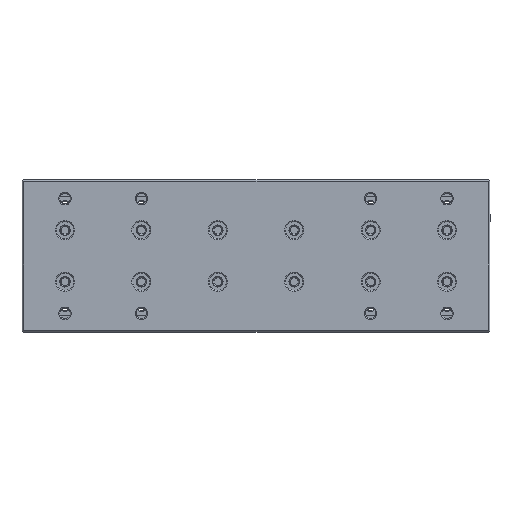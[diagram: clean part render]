
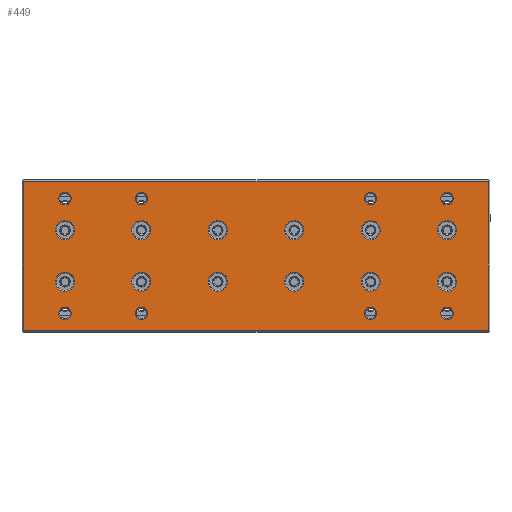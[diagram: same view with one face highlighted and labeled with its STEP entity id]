
A CAD part, top view. The second image highlights one B-rep face of the part: STEP entity #449.
In plain terms, the highlighted planar face has unit normal (0, 0, 1) as drawn and (0, 0, -1) by its records, which use the part's own axes.
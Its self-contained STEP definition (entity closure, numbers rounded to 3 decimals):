
#449=ADVANCED_FACE('',(#1333,#1334,#1335,#1336,#1337,#1338,#1339,#1340,
#1341,#1342,#1343,#1344,#1345,#1346,#1347,#1348,#1349,#1350,#1351,#1352,
#1353),#829,.F.);
#829=PLANE('',#5865);
#975=CIRCLE('',#5845,5.);
#976=CIRCLE('',#5846,5.);
#977=CIRCLE('',#5847,5.);
#978=CIRCLE('',#5848,5.);
#979=CIRCLE('',#5849,3.25);
#980=CIRCLE('',#5850,5.);
#981=CIRCLE('',#5851,5.);
#982=CIRCLE('',#5852,3.25);
#983=CIRCLE('',#5853,5.);
#984=CIRCLE('',#5854,3.25);
#985=CIRCLE('',#5855,5.);
#986=CIRCLE('',#5856,5.);
#987=CIRCLE('',#5857,3.25);
#988=CIRCLE('',#5858,3.25);
#989=CIRCLE('',#5859,5.);
#990=CIRCLE('',#5860,5.);
#991=CIRCLE('',#5861,3.25);
#992=CIRCLE('',#5862,5.);
#993=CIRCLE('',#5863,3.25);
#994=CIRCLE('',#5864,3.25);
#1333=FACE_BOUND('',#2013,.T.);
#1334=FACE_BOUND('',#2014,.T.);
#1335=FACE_BOUND('',#2015,.T.);
#1336=FACE_BOUND('',#2016,.T.);
#1337=FACE_BOUND('',#2017,.T.);
#1338=FACE_BOUND('',#2018,.T.);
#1339=FACE_BOUND('',#2019,.T.);
#1340=FACE_BOUND('',#2020,.T.);
#1341=FACE_BOUND('',#2021,.T.);
#1342=FACE_BOUND('',#2022,.T.);
#1343=FACE_BOUND('',#2023,.T.);
#1344=FACE_BOUND('',#2024,.T.);
#1345=FACE_BOUND('',#2025,.T.);
#1346=FACE_BOUND('',#2026,.T.);
#1347=FACE_BOUND('',#2027,.T.);
#1348=FACE_BOUND('',#2028,.T.);
#1349=FACE_BOUND('',#2029,.T.);
#1350=FACE_BOUND('',#2030,.T.);
#1351=FACE_BOUND('',#2031,.T.);
#1352=FACE_BOUND('',#2032,.T.);
#1353=FACE_BOUND('',#2033,.T.);
#2013=EDGE_LOOP('',(#2782));
#2014=EDGE_LOOP('',(#2783));
#2015=EDGE_LOOP('',(#2784,#2785,#2786,#2787));
#2016=EDGE_LOOP('',(#2788));
#2017=EDGE_LOOP('',(#2789));
#2018=EDGE_LOOP('',(#2790));
#2019=EDGE_LOOP('',(#2791));
#2020=EDGE_LOOP('',(#2792));
#2021=EDGE_LOOP('',(#2793));
#2022=EDGE_LOOP('',(#2794));
#2023=EDGE_LOOP('',(#2795));
#2024=EDGE_LOOP('',(#2796));
#2025=EDGE_LOOP('',(#2797));
#2026=EDGE_LOOP('',(#2798));
#2027=EDGE_LOOP('',(#2799));
#2028=EDGE_LOOP('',(#2800));
#2029=EDGE_LOOP('',(#2801));
#2030=EDGE_LOOP('',(#2802));
#2031=EDGE_LOOP('',(#2803));
#2032=EDGE_LOOP('',(#2804));
#2033=EDGE_LOOP('',(#2805));
#2782=ORIENTED_EDGE('',*,*,#4628,.T.);
#2783=ORIENTED_EDGE('',*,*,#4629,.T.);
#2784=ORIENTED_EDGE('',*,*,#4630,.T.);
#2785=ORIENTED_EDGE('',*,*,#4631,.T.);
#2786=ORIENTED_EDGE('',*,*,#4632,.T.);
#2787=ORIENTED_EDGE('',*,*,#4633,.T.);
#2788=ORIENTED_EDGE('',*,*,#4634,.T.);
#2789=ORIENTED_EDGE('',*,*,#4635,.T.);
#2790=ORIENTED_EDGE('',*,*,#4636,.T.);
#2791=ORIENTED_EDGE('',*,*,#4637,.T.);
#2792=ORIENTED_EDGE('',*,*,#4638,.T.);
#2793=ORIENTED_EDGE('',*,*,#4639,.T.);
#2794=ORIENTED_EDGE('',*,*,#4640,.T.);
#2795=ORIENTED_EDGE('',*,*,#4641,.T.);
#2796=ORIENTED_EDGE('',*,*,#4642,.T.);
#2797=ORIENTED_EDGE('',*,*,#4643,.T.);
#2798=ORIENTED_EDGE('',*,*,#4644,.T.);
#2799=ORIENTED_EDGE('',*,*,#4645,.T.);
#2800=ORIENTED_EDGE('',*,*,#4646,.T.);
#2801=ORIENTED_EDGE('',*,*,#4647,.T.);
#2802=ORIENTED_EDGE('',*,*,#4648,.T.);
#2803=ORIENTED_EDGE('',*,*,#4649,.T.);
#2804=ORIENTED_EDGE('',*,*,#4650,.T.);
#2805=ORIENTED_EDGE('',*,*,#4651,.T.);
#4084=VERTEX_POINT('',#8370);
#4085=VERTEX_POINT('',#8372);
#4086=VERTEX_POINT('',#8374);
#4087=VERTEX_POINT('',#8375);
#4088=VERTEX_POINT('',#8377);
#4089=VERTEX_POINT('',#8379);
#4090=VERTEX_POINT('',#8382);
#4091=VERTEX_POINT('',#8384);
#4092=VERTEX_POINT('',#8386);
#4093=VERTEX_POINT('',#8388);
#4094=VERTEX_POINT('',#8390);
#4095=VERTEX_POINT('',#8392);
#4096=VERTEX_POINT('',#8394);
#4097=VERTEX_POINT('',#8396);
#4098=VERTEX_POINT('',#8398);
#4099=VERTEX_POINT('',#8400);
#4100=VERTEX_POINT('',#8402);
#4101=VERTEX_POINT('',#8404);
#4102=VERTEX_POINT('',#8406);
#4103=VERTEX_POINT('',#8408);
#4104=VERTEX_POINT('',#8410);
#4105=VERTEX_POINT('',#8412);
#4106=VERTEX_POINT('',#8414);
#4107=VERTEX_POINT('',#8416);
#4628=EDGE_CURVE('',#4084,#4084,#975,.T.);
#4629=EDGE_CURVE('',#4085,#4085,#976,.T.);
#4630=EDGE_CURVE('',#4086,#4087,#5273,.T.);
#4631=EDGE_CURVE('',#4087,#4088,#5274,.T.);
#4632=EDGE_CURVE('',#4088,#4089,#5275,.T.);
#4633=EDGE_CURVE('',#4089,#4086,#5276,.T.);
#4634=EDGE_CURVE('',#4090,#4090,#977,.T.);
#4635=EDGE_CURVE('',#4091,#4091,#978,.T.);
#4636=EDGE_CURVE('',#4092,#4092,#979,.T.);
#4637=EDGE_CURVE('',#4093,#4093,#980,.T.);
#4638=EDGE_CURVE('',#4094,#4094,#981,.T.);
#4639=EDGE_CURVE('',#4095,#4095,#982,.T.);
#4640=EDGE_CURVE('',#4096,#4096,#983,.T.);
#4641=EDGE_CURVE('',#4097,#4097,#984,.T.);
#4642=EDGE_CURVE('',#4098,#4098,#985,.T.);
#4643=EDGE_CURVE('',#4099,#4099,#986,.T.);
#4644=EDGE_CURVE('',#4100,#4100,#987,.T.);
#4645=EDGE_CURVE('',#4101,#4101,#988,.T.);
#4646=EDGE_CURVE('',#4102,#4102,#989,.T.);
#4647=EDGE_CURVE('',#4103,#4103,#990,.T.);
#4648=EDGE_CURVE('',#4104,#4104,#991,.T.);
#4649=EDGE_CURVE('',#4105,#4105,#992,.T.);
#4650=EDGE_CURVE('',#4106,#4106,#993,.T.);
#4651=EDGE_CURVE('',#4107,#4107,#994,.T.);
#5273=LINE('',#8373,#5557);
#5274=LINE('',#8376,#5558);
#5275=LINE('',#8378,#5559);
#5276=LINE('',#8380,#5560);
#5557=VECTOR('',#6603,1.);
#5558=VECTOR('',#6604,1.);
#5559=VECTOR('',#6605,1.);
#5560=VECTOR('',#6606,1.);
#5845=AXIS2_PLACEMENT_3D('',#8369,#6599,#6600);
#5846=AXIS2_PLACEMENT_3D('',#8371,#6601,#6602);
#5847=AXIS2_PLACEMENT_3D('',#8381,#6607,#6608);
#5848=AXIS2_PLACEMENT_3D('',#8383,#6609,#6610);
#5849=AXIS2_PLACEMENT_3D('',#8385,#6611,#6612);
#5850=AXIS2_PLACEMENT_3D('',#8387,#6613,#6614);
#5851=AXIS2_PLACEMENT_3D('',#8389,#6615,#6616);
#5852=AXIS2_PLACEMENT_3D('',#8391,#6617,#6618);
#5853=AXIS2_PLACEMENT_3D('',#8393,#6619,#6620);
#5854=AXIS2_PLACEMENT_3D('',#8395,#6621,#6622);
#5855=AXIS2_PLACEMENT_3D('',#8397,#6623,#6624);
#5856=AXIS2_PLACEMENT_3D('',#8399,#6625,#6626);
#5857=AXIS2_PLACEMENT_3D('',#8401,#6627,#6628);
#5858=AXIS2_PLACEMENT_3D('',#8403,#6629,#6630);
#5859=AXIS2_PLACEMENT_3D('',#8405,#6631,#6632);
#5860=AXIS2_PLACEMENT_3D('',#8407,#6633,#6634);
#5861=AXIS2_PLACEMENT_3D('',#8409,#6635,#6636);
#5862=AXIS2_PLACEMENT_3D('',#8411,#6637,#6638);
#5863=AXIS2_PLACEMENT_3D('',#8413,#6639,#6640);
#5864=AXIS2_PLACEMENT_3D('',#8415,#6641,#6642);
#5865=AXIS2_PLACEMENT_3D('',#8417,#6643,#6644);
#6599=DIRECTION('',(0.,0.,1.));
#6600=DIRECTION('',(1.,0.,0.));
#6601=DIRECTION('',(0.,0.,1.));
#6602=DIRECTION('',(1.,0.,0.));
#6603=DIRECTION('',(1.,0.,0.));
#6604=DIRECTION('',(0.,-1.,0.));
#6605=DIRECTION('',(-1.,0.,0.));
#6606=DIRECTION('',(0.,1.,0.));
#6607=DIRECTION('',(0.,0.,1.));
#6608=DIRECTION('',(1.,0.,0.));
#6609=DIRECTION('',(0.,0.,1.));
#6610=DIRECTION('',(1.,0.,0.));
#6611=DIRECTION('',(0.,0.,1.));
#6612=DIRECTION('',(1.,0.,0.));
#6613=DIRECTION('',(0.,0.,1.));
#6614=DIRECTION('',(1.,0.,0.));
#6615=DIRECTION('',(0.,0.,1.));
#6616=DIRECTION('',(1.,0.,0.));
#6617=DIRECTION('',(0.,0.,1.));
#6618=DIRECTION('',(1.,0.,0.));
#6619=DIRECTION('',(0.,0.,1.));
#6620=DIRECTION('',(1.,0.,0.));
#6621=DIRECTION('',(0.,0.,1.));
#6622=DIRECTION('',(1.,0.,0.));
#6623=DIRECTION('',(0.,0.,1.));
#6624=DIRECTION('',(1.,0.,0.));
#6625=DIRECTION('',(0.,0.,1.));
#6626=DIRECTION('',(1.,0.,0.));
#6627=DIRECTION('',(0.,0.,1.));
#6628=DIRECTION('',(1.,0.,0.));
#6629=DIRECTION('',(0.,0.,1.));
#6630=DIRECTION('',(1.,0.,0.));
#6631=DIRECTION('',(0.,0.,1.));
#6632=DIRECTION('',(1.,0.,0.));
#6633=DIRECTION('',(0.,0.,1.));
#6634=DIRECTION('',(1.,0.,0.));
#6635=DIRECTION('',(0.,0.,1.));
#6636=DIRECTION('',(1.,0.,0.));
#6637=DIRECTION('',(0.,0.,1.));
#6638=DIRECTION('',(1.,0.,0.));
#6639=DIRECTION('',(0.,0.,1.));
#6640=DIRECTION('',(1.,0.,0.));
#6641=DIRECTION('',(0.,0.,1.));
#6642=DIRECTION('',(1.,0.,0.));
#6643=DIRECTION('',(0.,0.,1.));
#6644=DIRECTION('',(-1.,0.,0.));
#8369=CARTESIAN_POINT('',(62.5,-13.5,0.));
#8370=CARTESIAN_POINT('',(67.5,-13.5,0.));
#8371=CARTESIAN_POINT('',(62.5,13.5,0.));
#8372=CARTESIAN_POINT('',(67.5,13.5,0.));
#8373=CARTESIAN_POINT('',(1.,39.,0.));
#8374=CARTESIAN_POINT('',(-39.,39.,0.));
#8375=CARTESIAN_POINT('',(204.,39.,0.));
#8376=CARTESIAN_POINT('',(204.,39.,0.));
#8377=CARTESIAN_POINT('',(204.,-39.,0.));
#8378=CARTESIAN_POINT('',(204.,-39.,0.));
#8379=CARTESIAN_POINT('',(-39.,-39.,0.));
#8380=CARTESIAN_POINT('',(-39.,-39.,0.));
#8381=CARTESIAN_POINT('',(182.5,13.5,0.));
#8382=CARTESIAN_POINT('',(187.5,13.5,0.));
#8383=CARTESIAN_POINT('',(142.5,13.5,0.));
#8384=CARTESIAN_POINT('',(147.5,13.5,0.));
#8385=CARTESIAN_POINT('',(142.5,30.,0.));
#8386=CARTESIAN_POINT('',(145.75,30.,0.));
#8387=CARTESIAN_POINT('',(102.5,13.5,0.));
#8388=CARTESIAN_POINT('',(107.5,13.5,0.));
#8389=CARTESIAN_POINT('',(22.5,13.5,0.));
#8390=CARTESIAN_POINT('',(27.5,13.5,0.));
#8391=CARTESIAN_POINT('',(22.5,30.,0.));
#8392=CARTESIAN_POINT('',(25.75,30.,0.));
#8393=CARTESIAN_POINT('',(-17.5,13.5,0.));
#8394=CARTESIAN_POINT('',(-12.5,13.5,0.));
#8395=CARTESIAN_POINT('',(-17.5,30.,0.));
#8396=CARTESIAN_POINT('',(-14.25,30.,0.));
#8397=CARTESIAN_POINT('',(-17.5,-13.5,0.));
#8398=CARTESIAN_POINT('',(-12.5,-13.5,0.));
#8399=CARTESIAN_POINT('',(22.5,-13.5,0.));
#8400=CARTESIAN_POINT('',(27.5,-13.5,0.));
#8401=CARTESIAN_POINT('',(-17.5,-30.,0.));
#8402=CARTESIAN_POINT('',(-14.25,-30.,0.));
#8403=CARTESIAN_POINT('',(22.5,-30.,0.));
#8404=CARTESIAN_POINT('',(25.75,-30.,0.));
#8405=CARTESIAN_POINT('',(102.5,-13.5,0.));
#8406=CARTESIAN_POINT('',(107.5,-13.5,0.));
#8407=CARTESIAN_POINT('',(142.5,-13.5,0.));
#8408=CARTESIAN_POINT('',(147.5,-13.5,0.));
#8409=CARTESIAN_POINT('',(142.5,-30.,0.));
#8410=CARTESIAN_POINT('',(145.75,-30.,0.));
#8411=CARTESIAN_POINT('',(182.5,-13.5,0.));
#8412=CARTESIAN_POINT('',(187.5,-13.5,0.));
#8413=CARTESIAN_POINT('',(182.5,-30.,0.));
#8414=CARTESIAN_POINT('',(185.75,-30.,0.));
#8415=CARTESIAN_POINT('',(182.5,30.,0.));
#8416=CARTESIAN_POINT('',(185.75,30.,0.));
#8417=CARTESIAN_POINT('',(0.,0.,0.));
